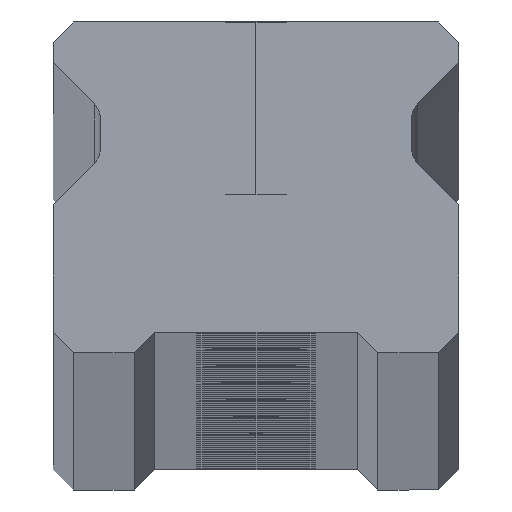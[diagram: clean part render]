
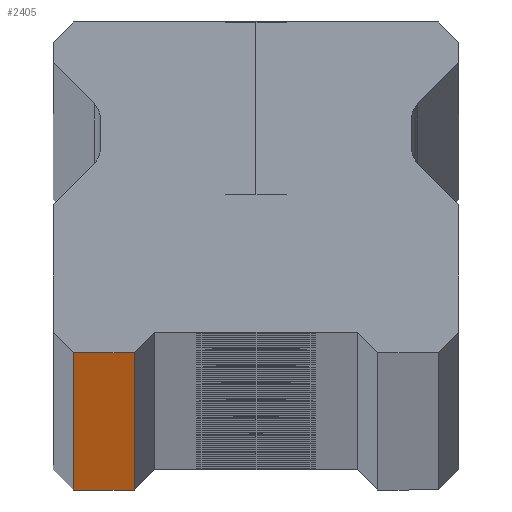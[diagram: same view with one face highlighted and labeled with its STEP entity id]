
A CAD part, top view. The second image highlights one B-rep face of the part: STEP entity #2405.
In plain terms, the highlighted planar face has unit normal (0, -1, 0).
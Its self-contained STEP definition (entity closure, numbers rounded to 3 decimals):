
#2009 = EDGE_CURVE ( 'NONE', #4853, #7127, #8193, .T. ) ;
#2396 = CARTESIAN_POINT ( 'NONE',  ( 10., 0., 1940. ) ) ;
#2405 = ADVANCED_FACE ( 'NONE', ( #5528 ), #9620, .F. ) ;
#2650 = ORIENTED_EDGE ( 'NONE', *, *, #3136, .F. ) ;
#3136 = EDGE_CURVE ( 'NONE', #4582, #7127, #3939, .T. ) ;
#3366 = CARTESIAN_POINT ( 'NONE',  ( -9., 0., 1940. ) ) ;
#3581 = VECTOR ( 'NONE', #4657, 1000. ) ;
#3939 = LINE ( 'NONE', #2396, #4441 ) ;
#4071 = DIRECTION ( 'NONE',  ( 1., 0., 0. ) ) ;
#4129 = VECTOR ( 'NONE', #5493, 1000. ) ;
#4441 = VECTOR ( 'NONE', #4071, 1000. ) ;
#4496 = DIRECTION ( 'NONE',  ( -1., 0., 0. ) ) ;
#4567 = DIRECTION ( 'NONE',  ( 0., 1., 0. ) ) ;
#4582 = VERTEX_POINT ( 'NONE', #8727 ) ;
#4657 = DIRECTION ( 'NONE',  ( 0., 0., 1. ) ) ;
#4853 = VERTEX_POINT ( 'NONE', #9117 ) ;
#5206 = CARTESIAN_POINT ( 'NONE',  ( -6., 0., 1940. ) ) ;
#5493 = DIRECTION ( 'NONE',  ( 1., 0., 0. ) ) ;
#5528 = FACE_OUTER_BOUND ( 'NONE', #7085, .T. ) ;
#6379 = VECTOR ( 'NONE', #10888, 1000. ) ;
#6423 = ORIENTED_EDGE ( 'NONE', *, *, #2009, .T. ) ;
#6567 = VERTEX_POINT ( 'NONE', #9560 ) ;
#7085 = EDGE_LOOP ( 'NONE', ( #9100, #6423, #2650, #10107 ) ) ;
#7098 = EDGE_CURVE ( 'NONE', #4582, #6567, #8612, .T. ) ;
#7118 = CARTESIAN_POINT ( 'NONE',  ( 10., 0., 1940. ) ) ;
#7127 = VERTEX_POINT ( 'NONE', #5206 ) ;
#8134 = CARTESIAN_POINT ( 'NONE',  ( -6., 0., -1940. ) ) ;
#8193 = LINE ( 'NONE', #8134, #3581 ) ;
#8612 = LINE ( 'NONE', #3366, #6379 ) ;
#8727 = CARTESIAN_POINT ( 'NONE',  ( -9., 0., 1940. ) ) ;
#8909 = CARTESIAN_POINT ( 'NONE',  ( 10., 0., -1940. ) ) ;
#9100 = ORIENTED_EDGE ( 'NONE', *, *, #9882, .T. ) ;
#9117 = CARTESIAN_POINT ( 'NONE',  ( -6., 0., -1940. ) ) ;
#9560 = CARTESIAN_POINT ( 'NONE',  ( -9., 0., -1940. ) ) ;
#9620 = PLANE ( 'NONE',  #10802 ) ;
#9882 = EDGE_CURVE ( 'NONE', #6567, #4853, #10442, .T. ) ;
#10107 = ORIENTED_EDGE ( 'NONE', *, *, #7098, .T. ) ;
#10442 = LINE ( 'NONE', #8909, #4129 ) ;
#10802 = AXIS2_PLACEMENT_3D ( 'NONE', #7118, #4567, #4496 ) ;
#10888 = DIRECTION ( 'NONE',  ( 0., 0., -1. ) ) ;
